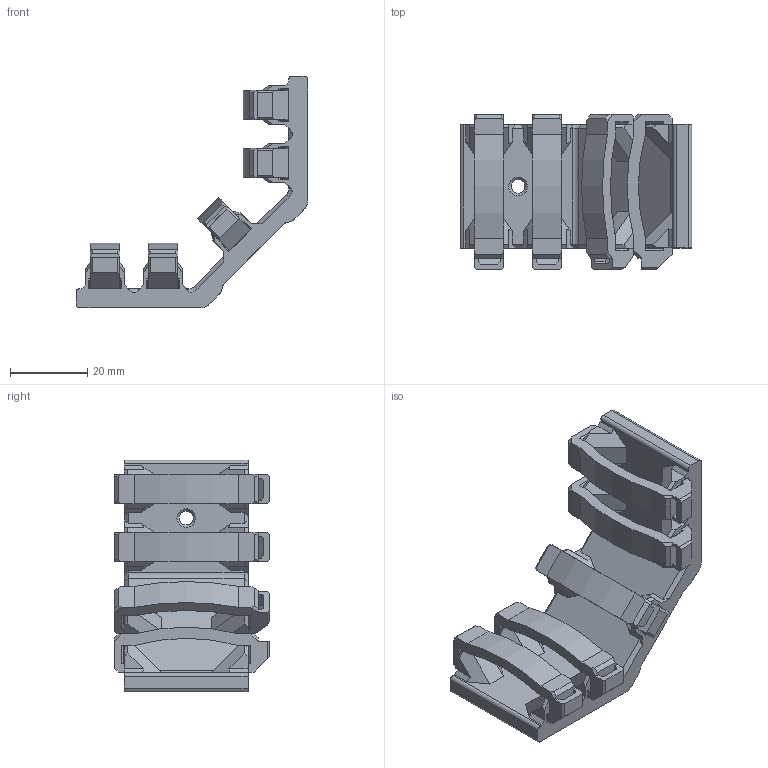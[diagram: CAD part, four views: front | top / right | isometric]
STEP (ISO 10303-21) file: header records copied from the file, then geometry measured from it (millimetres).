
FILE_DESCRIPTION(/* description */ (''),/* implementation_level */ '2;1');
FILE_NAME(/* name */ 'L_Shape_Cable_Guide_Assembly.step',/* time_stamp */ '2024-10-24T11:30:14+02:00',/* author */ (''),/* organization */ (''),/* preprocessor_version */ 'ST-DEVELOPER v20',/* originating_system */ 'Autodesk Translation Framework v13.20.0.188',/* authorisation */ '');
FILE_SCHEMA (('AUTOMOTIVE_DESIGN { 1 0 10303 214 3 1 1 }'));
Length unit declared in the file: millimetre
Products named in the file (3): L_Shape_Cable_Guide_Assembly; L_Shape_Cable_Guide_Clips; L_Shape_Cable_Guide
Assembly tree (2 placements, depth 2):
  L_Shape_Cable_Guide_Assembly
    L_Shape_Cable_Guide_Clips
    L_Shape_Cable_Guide
Bounding box: 60 x 40.2 x 60 mm (x, y, z)
Volume: 21038.2 mm3; surface area: 15997.8 mm2
Topology: 6 solids, 6 shells, 614 faces, 1656 edges, 1068 vertices
Faces by surface type: plane 474, cylinder 84, sphere 32, cone 12, bspline 8, torus 4
Full cylindrical faces by diameter (mm): 3.6 x2
Entity records: 19207 total; most frequent: CARTESIAN_POINT 3647, ORIENTED_EDGE 3312, DIRECTION 3046, EDGE_CURVE 1656, LINE 1416, VECTOR 1416, VERTEX_POINT 1068, AXIS2_PLACEMENT_3D 815
